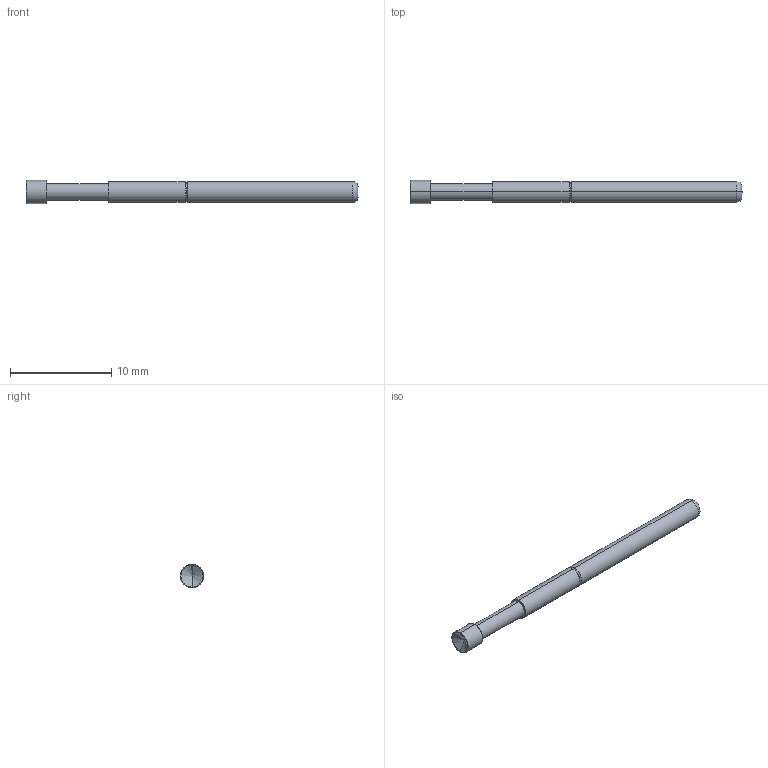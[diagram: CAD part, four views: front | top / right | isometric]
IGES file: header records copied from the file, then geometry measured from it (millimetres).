
Start section: SolidWorks IGES file using analytic representation for surfaces
Global section: file name: O:\PYLON\IGES FILES\P2665\P2665G-1V1S.IGS; native system: SolidWorks 2015; preprocessor: SolidWorks 2015; author: kgolden; date: 171019.135246; units: inch
Bounding box: 32.76 x 2.29 x 2.29 mm (x, y, z)
Surface area: 223.2 mm2 (no closed solid volume)
Topology: 0 solids, 0 shells, 22 faces, 248 edges, 246 vertices
Faces by surface type: revolution 12, bspline 10
